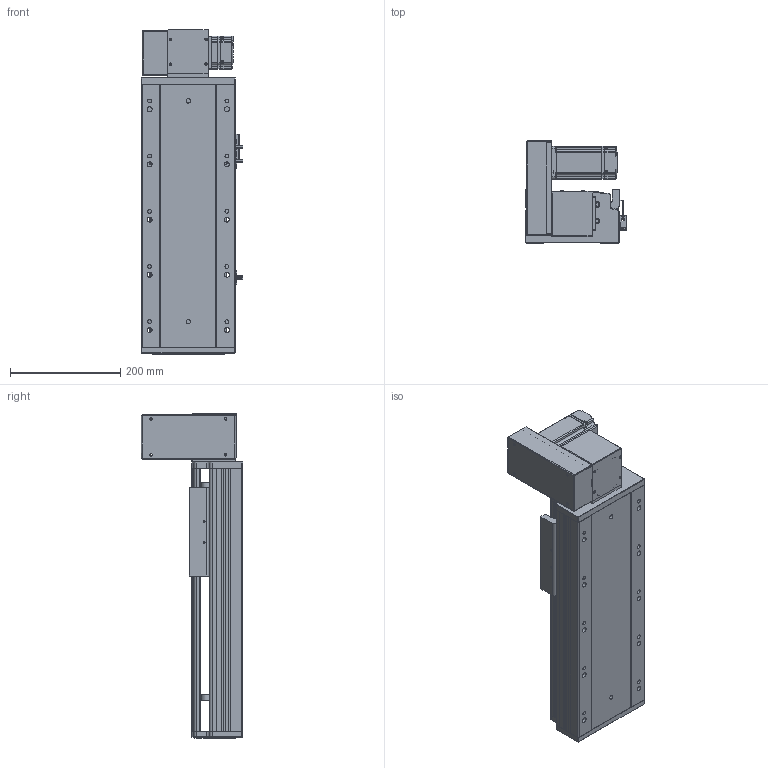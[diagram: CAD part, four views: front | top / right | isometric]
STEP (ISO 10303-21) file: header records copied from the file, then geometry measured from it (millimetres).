
FILE_DESCRIPTION (( 'STEP AP203' ), '1' );
FILE_NAME ('RY170-T-300-UL-P400W.SLDASM_200.step', '2021-03-02T02:11:53', ( '盈信电脑' ), ( '东莞市道滘镇水果街19号' ), 'SwSTEP 2.0', 'SolidWorks 2012', '' );
FILE_SCHEMA (( 'CONFIG_CONTROL_DESIGN' ));
Length unit declared in the file: millimetre
Products named in the file (18): RY170-T-300-UL-P400W.SLDASM_200; RY170肮祭謫萇儂欶; 15; RY170-T蹟翐M4; RY170同步轮电机安装板(400W); RY170-T肮祭湍揤踡輸2; RY170-T肮祭謫裔啣; RY120-T主同步轮轴承压盖; 滅袉蝶18-10; RY170翋肮祭謫釱; RY170外置感应片(200共用）; RY170肮祭謫ヶ裔啣; RY170-T肮祭湍揤踡輸1; RY170綴裔啣; 覜茼ん672; RY170-T-300肮祭謫倰第裔啣-DL_200; RY170-T-300肮祭謫倰第菁釱-DL_200; RY170肮祭湍臏賑輸
Assembly tree (20 placements, depth 2):
  RY170-T-300-UL-P400W.SLDASM_200
    RY170-T-300肮祭謫倰第菁釱-DL_200
    RY170肮祭湍臏賑輸
    RY170-T-300肮祭謫倰第裔啣-DL_200
    RY170綴裔啣
    覜茼ん672  x3
    RY170外置感应片(200共用）
    RY170肮祭謫ヶ裔啣
    RY170翋肮祭謫釱
    RY170-T肮祭湍揤踡輸1
    RY170-T肮祭湍揤踡輸2
    RY170-T肮祭謫裔啣
    滅袉蝶18-10  x2
    RY120-T主同步轮轴承压盖
    RY170肮祭謫萇儂欶
    RY170同步轮电机安装板(400W)
    RY170-T蹟翐M4
    15
Bounding box: 183.7 x 184 x 588 mm (x, y, z)
Volume: 3538780.5 mm3; surface area: 1142428.4 mm2
Topology: 20 solids, 20 shells, 2397 faces, 6630 edges, 4275 vertices
Faces by surface type: plane 1141, cylinder 1042, cone 184, bspline 30
Entity records: 75472 total; most frequent: CARTESIAN_POINT 16270, ORIENTED_EDGE 12008, DIRECTION 11890, EDGE_CURVE 6004, AXIS2_PLACEMENT_3D 4137, VERTEX_POINT 3943, LINE 3616, VECTOR 3616
